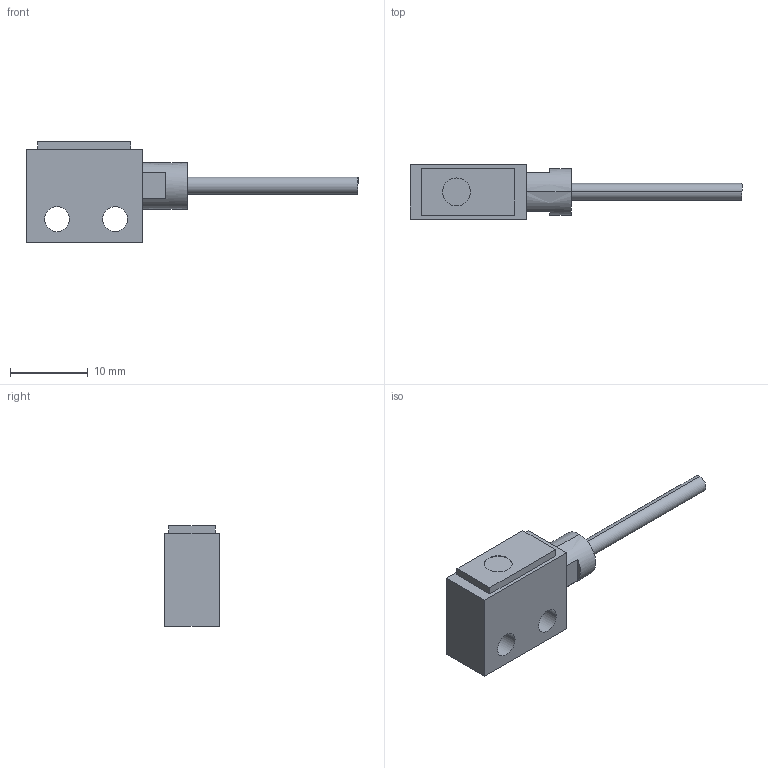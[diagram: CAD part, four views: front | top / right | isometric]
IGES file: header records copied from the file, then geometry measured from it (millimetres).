
Start section: SolidWorks IGES FILE using analytic representation for surfaces
Global section: file name: \\intra-srv04\開発データ\CAD_Data\CAD委員会\3D電子ｶﾀﾛｸﾞ\製品カタログ（新）\0_IGES\FT-Z802Y.IGS,41HSolidWorks 2004; native system: by SolidWorks Corporation; preprocessor: Version 5.3; author: mf1158; date: 050908.113528; units: millimetre
Bounding box: 42.8 x 7 x 13 mm (x, y, z)
Volume: 1459.3 mm3; surface area: 1148.4 mm2
Topology: 1 solids, 1 shells, 28 faces, 66 edges, 44 vertices
Faces by surface type: plane 18, revolution 10
